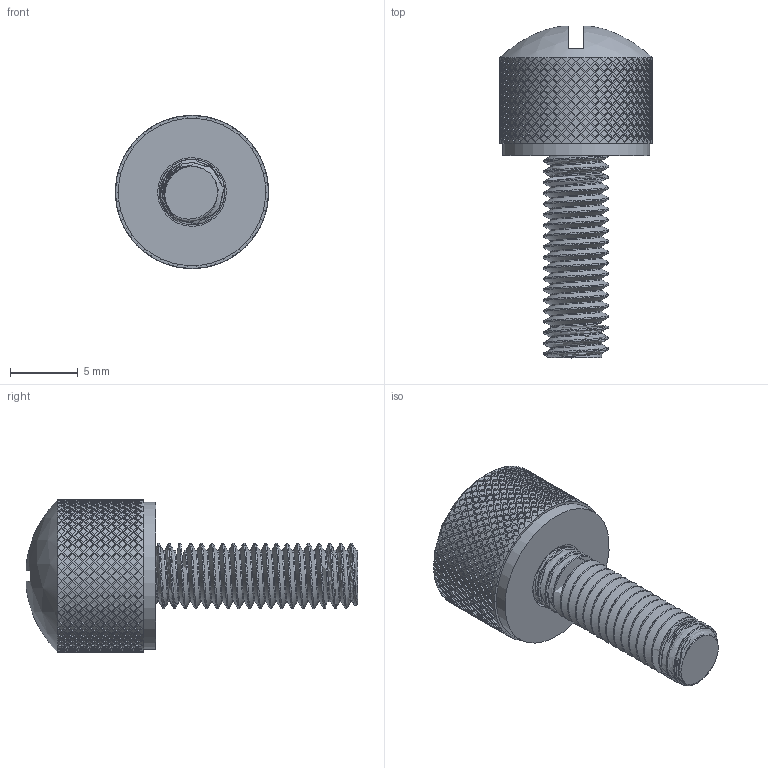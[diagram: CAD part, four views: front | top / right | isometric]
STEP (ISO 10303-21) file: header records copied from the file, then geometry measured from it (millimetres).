
FILE_DESCRIPTION(/* description */ (''),/* implementation_level */ '2;1');
FILE_NAME(/* name */ 'C:\Users\TFoster\Desktop\STEP files\TSCREW1032.stp',/* time_stamp */ '2020-10-15T10:29:54-04:00',/* author */ ('tfoster'),/* organization */ (''),/* preprocessor_version */ 'ST-DEVELOPER v18',/* originating_system */ 'Autodesk Inventor 2020',/* authorisation */ '');
FILE_SCHEMA (('AUTOMOTIVE_DESIGN { 1 0 10303 214 3 1 1 }'));
Products named in the file (4): SCR107; Thumb head; washer; 10-32
Assembly tree (3 placements, depth 2):
  SCR107
    Thumb head
    washer
    10-32
Bounding box: 11.33 x 24.58 x 11.33 mm (x, y, z)
Volume: 1026.3 mm3; surface area: 1217.9 mm2
Topology: 3 solids, 3 shells, 3827 faces, 9264 edges, 6137 vertices
Faces by surface type: plane 3778, cylinder 44, bspline 3, sphere 1, cone 1
Full cylindrical faces by diameter (mm): 3.795 x20, 4.826 x18, 5.08 x1, 10.922 x1, 11.328 x1
Entity records: 116494 total; most frequent: CARTESIAN_POINT 23566, DIRECTION 19916, ORIENTED_EDGE 18528, EDGE_CURVE 9264, AXIS2_PLACEMENT_3D 6912, VERTEX_POINT 6137, LINE 6092, VECTOR 6092
